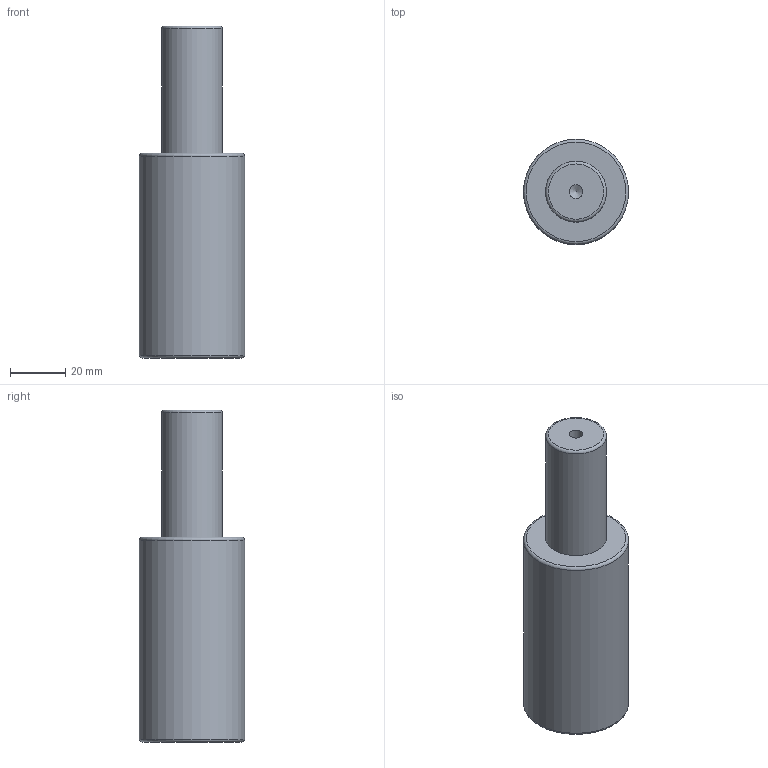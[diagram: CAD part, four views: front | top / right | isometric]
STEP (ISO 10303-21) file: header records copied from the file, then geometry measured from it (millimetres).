
FILE_DESCRIPTION(/* description */ (''),/* implementation_level */ '2;1');
FILE_NAME(/* name */ 'NV5-SMLX.38x45.stp',/* time_stamp */ '2018-08-31T16:08:35+02:00',/* author */ (''),/* organization */ (''),/* preprocessor_version */ 'ST-DEVELOPER v16',/* originating_system */ 'SIEMENS PLM Software NX 10.0',/* authorisation */ '');
FILE_SCHEMA (('AUTOMOTIVE_DESIGN { 1 0 10303 214 3 1 1 1 }'));
Length unit declared in the file: millimetre
Products named in the file (1): NV5-SMLX.38x45
Bounding box: 38 x 38 x 120 mm (x, y, z)
Volume: 100513.8 mm3; surface area: 14672.1 mm2
Topology: 1 solids, 1 shells, 12 faces, 24 edges, 15 vertices
Faces by surface type: cylinder 4, torus 3, plane 3, cone 2
Full cylindrical faces by diameter (mm): 5 x1, 6.8 x1, 22 x1, 38 x1
Entity records: 266 total; most frequent: DIRECTION 48, CARTESIAN_POINT 37, FACE_BOUND 24, AXIS2_PLACEMENT_3D 24, EDGE_LOOP 22, ORIENTED_EDGE 22, VERTEX_POINT 13, ADVANCED_FACE 12
